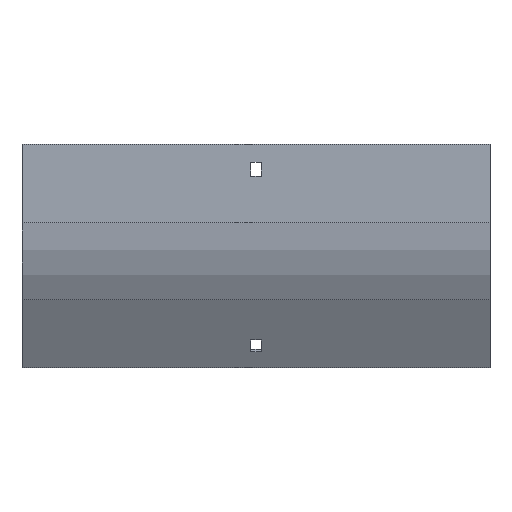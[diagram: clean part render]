
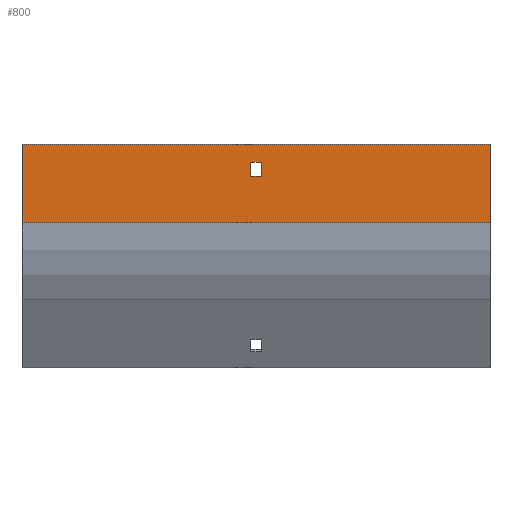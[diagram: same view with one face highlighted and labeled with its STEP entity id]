
A CAD part, front view. The second image highlights one B-rep face of the part: STEP entity #800.
In plain terms, the highlighted planar face has unit normal (0, -1, 0).
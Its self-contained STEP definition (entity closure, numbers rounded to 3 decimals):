
#2 = DIRECTION ( 'NONE',  ( -1., 0., 0. ) ) ;
#11 = EDGE_CURVE ( 'NONE', #105, #1008, #1535, .T. ) ;
#36 = DIRECTION ( 'NONE',  ( 0., 0., -1. ) ) ;
#58 = EDGE_CURVE ( 'NONE', #679, #151, #1807, .T. ) ;
#63 = CARTESIAN_POINT ( 'NONE',  ( 3.25, -79., -21. ) ) ;
#94 = EDGE_CURVE ( 'NONE', #755, #679, #310, .T. ) ;
#105 = VERTEX_POINT ( 'NONE', #877 ) ;
#149 = DIRECTION ( 'NONE',  ( 0., 0., 1. ) ) ;
#151 = VERTEX_POINT ( 'NONE', #1613 ) ;
#160 = CARTESIAN_POINT ( 'NONE',  ( -3.25, -79., -12. ) ) ;
#167 = VECTOR ( 'NONE', #36, 1000. ) ;
#183 = LINE ( 'NONE', #341, #167 ) ;
#204 = VERTEX_POINT ( 'NONE', #888 ) ;
#236 = EDGE_CURVE ( 'NONE', #1701, #204, #183, .T. ) ;
#310 = LINE ( 'NONE', #1364, #1862 ) ;
#314 = DIRECTION ( 'NONE',  ( 0., 0., 1. ) ) ;
#341 = CARTESIAN_POINT ( 'NONE',  ( -152., -79., -51.168 ) ) ;
#409 = VECTOR ( 'NONE', #1767, 1000. ) ;
#431 = VECTOR ( 'NONE', #1501, 1000. ) ;
#450 = LINE ( 'NONE', #1045, #431 ) ;
#535 = FACE_OUTER_BOUND ( 'NONE', #1687, .T. ) ;
#560 = DIRECTION ( 'NONE',  ( 0., 0., -1. ) ) ;
#566 = LINE ( 'NONE', #1165, #409 ) ;
#568 = CARTESIAN_POINT ( 'NONE',  ( -152., -79., 0. ) ) ;
#577 = LINE ( 'NONE', #1351, #1507 ) ;
#631 = VECTOR ( 'NONE', #560, 1000. ) ;
#679 = VERTEX_POINT ( 'NONE', #1824 ) ;
#687 = CARTESIAN_POINT ( 'NONE',  ( 152., -79., -51.168 ) ) ;
#692 = CARTESIAN_POINT ( 'NONE',  ( 152., -79., -51.168 ) ) ;
#755 = VERTEX_POINT ( 'NONE', #1907 ) ;
#760 = VECTOR ( 'NONE', #1062, 1000. ) ;
#792 = LINE ( 'NONE', #63, #1688 ) ;
#798 = EDGE_CURVE ( 'NONE', #1008, #204, #566, .T. ) ;
#800 = ADVANCED_FACE ( 'NONE', ( #1887, #535 ), #1440, .F. ) ;
#816 = ORIENTED_EDGE ( 'NONE', *, *, #236, .T. ) ;
#825 = ORIENTED_EDGE ( 'NONE', *, *, #1345, .T. ) ;
#877 = CARTESIAN_POINT ( 'NONE',  ( 152., -79., 0. ) ) ;
#888 = CARTESIAN_POINT ( 'NONE',  ( -152., -79., -51.168 ) ) ;
#934 = ORIENTED_EDGE ( 'NONE', *, *, #94, .T. ) ;
#945 = DIRECTION ( 'NONE',  ( 0., 0., -1. ) ) ;
#951 = ORIENTED_EDGE ( 'NONE', *, *, #11, .F. ) ;
#954 = CARTESIAN_POINT ( 'NONE',  ( 3.25, -79., -21. ) ) ;
#1008 = VERTEX_POINT ( 'NONE', #1712 ) ;
#1045 = CARTESIAN_POINT ( 'NONE',  ( 152., -79., 0. ) ) ;
#1062 = DIRECTION ( 'NONE',  ( 1., 0., 0. ) ) ;
#1144 = DIRECTION ( 'NONE',  ( 0., 1., 0. ) ) ;
#1165 = CARTESIAN_POINT ( 'NONE',  ( 152., -79., -51.168 ) ) ;
#1181 = ORIENTED_EDGE ( 'NONE', *, *, #1793, .T. ) ;
#1345 = EDGE_CURVE ( 'NONE', #105, #1701, #450, .T. ) ;
#1351 = CARTESIAN_POINT ( 'NONE',  ( -3.25, -79., -21. ) ) ;
#1364 = CARTESIAN_POINT ( 'NONE',  ( -3.25, -79., -21. ) ) ;
#1394 = EDGE_LOOP ( 'NONE', ( #1181, #934, #1601, #1769 ) ) ;
#1409 = EDGE_CURVE ( 'NONE', #151, #1484, #792, .T. ) ;
#1440 = PLANE ( 'NONE',  #1518 ) ;
#1484 = VERTEX_POINT ( 'NONE', #954 ) ;
#1501 = DIRECTION ( 'NONE',  ( -1., 0., 0. ) ) ;
#1507 = VECTOR ( 'NONE', #2, 1000. ) ;
#1516 = ORIENTED_EDGE ( 'NONE', *, *, #798, .F. ) ;
#1518 = AXIS2_PLACEMENT_3D ( 'NONE', #692, #1144, #314 ) ;
#1535 = LINE ( 'NONE', #687, #631 ) ;
#1601 = ORIENTED_EDGE ( 'NONE', *, *, #58, .T. ) ;
#1613 = CARTESIAN_POINT ( 'NONE',  ( 3.25, -79., -12. ) ) ;
#1687 = EDGE_LOOP ( 'NONE', ( #816, #1516, #951, #825 ) ) ;
#1688 = VECTOR ( 'NONE', #945, 1000. ) ;
#1701 = VERTEX_POINT ( 'NONE', #568 ) ;
#1712 = CARTESIAN_POINT ( 'NONE',  ( 152., -79., -51.168 ) ) ;
#1767 = DIRECTION ( 'NONE',  ( -1., 0., 0. ) ) ;
#1769 = ORIENTED_EDGE ( 'NONE', *, *, #1409, .T. ) ;
#1793 = EDGE_CURVE ( 'NONE', #1484, #755, #577, .T. ) ;
#1807 = LINE ( 'NONE', #160, #760 ) ;
#1824 = CARTESIAN_POINT ( 'NONE',  ( -3.25, -79., -12. ) ) ;
#1862 = VECTOR ( 'NONE', #149, 1000. ) ;
#1887 = FACE_BOUND ( 'NONE', #1394, .T. ) ;
#1907 = CARTESIAN_POINT ( 'NONE',  ( -3.25, -79., -21. ) ) ;
